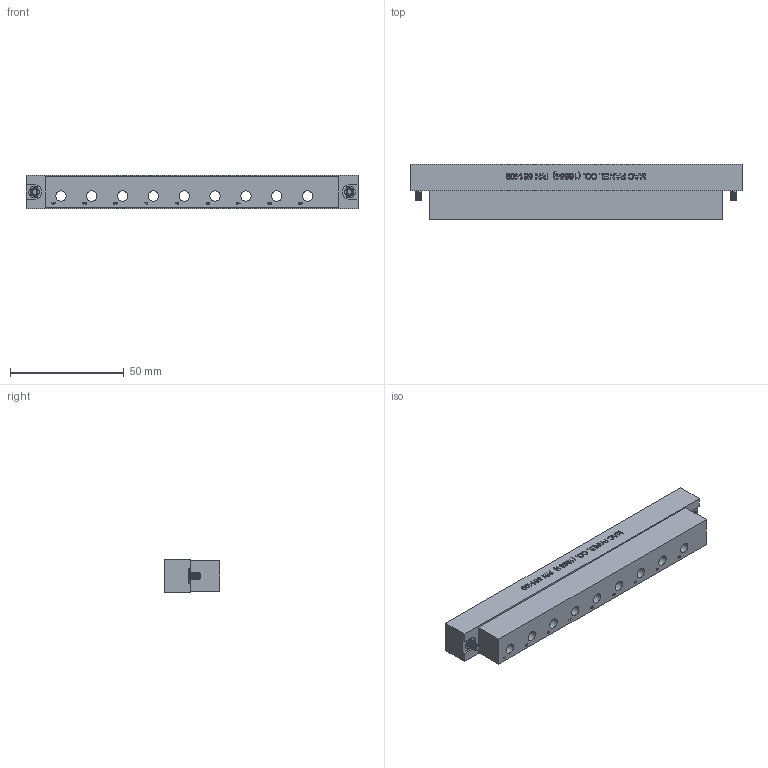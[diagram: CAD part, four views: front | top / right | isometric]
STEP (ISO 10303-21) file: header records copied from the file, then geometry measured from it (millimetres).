
FILE_DESCRIPTION((''),'2;1');
FILE_NAME('C:\old_Drawings\shrinkwrapped website .stp files\561409-STP.stp','2011-07-21T10:09:52',('GaryRobinson'),(''),'Autodesk Inventor 2011','Autodesk Inventor 2011','');
FILE_SCHEMA(('CONFIG_CONTROL_DESIGN'));
Length unit declared in the file: inch
Products named in the file (1): 561409-STP
Bounding box: 146.05 x 24.54 x 14.73 mm (x, y, z)
Surface area: 15966.9 mm2 (no closed solid volume)
Topology: 0 solids, 41 shells, 126 faces, 911 edges, 827 vertices
Faces by surface type: plane 74, cylinder 42, cone 6, bspline 4
Full cylindrical faces by diameter (mm): 2.845 x12, 3.962 x2, 4.572 x9, 5.08 x9, 5.461 x2
Entity records: 9790 total; most frequent: CARTESIAN_POINT 3935, ORIENTED_EDGE 968, EDGE_CURVE 830, DIRECTION 790, VERTEX_POINT 788, VECTOR 388, LINE 388, QUASI_UNIFORM_CURVE 338
